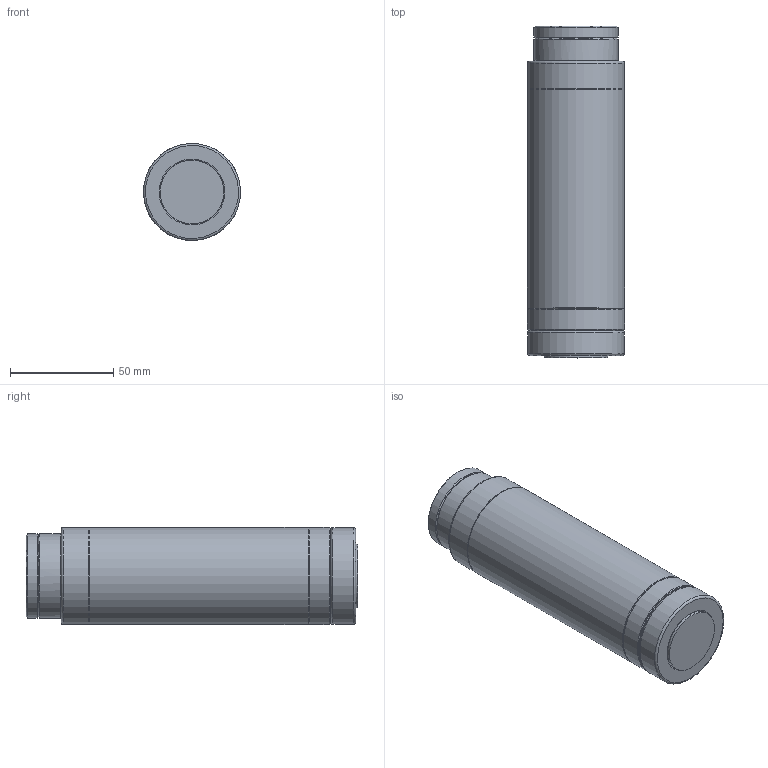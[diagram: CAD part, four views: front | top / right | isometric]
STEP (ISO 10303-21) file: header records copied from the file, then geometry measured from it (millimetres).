
FILE_DESCRIPTION (( 'STEP AP214' ), '1' );
FILE_NAME ('PA Altimeter 200-500kHz 4000m Al.STEP', '2014-12-10T13:53:32', ( 'Allan' ), ( 'Microsoft' ), 'SwSTEP 2.0', 'SolidWorks 2013', '' );
FILE_SCHEMA (( 'AUTOMOTIVE_DESIGN' ));
Length unit declared in the file: inch
Products named in the file (1): PA Altimeter 200-500kHz 4000m Al
Bounding box: 47 x 160.73 x 47 mm (x, y, z)
Surface area: 31666.3 mm2 (no closed solid volume)
Topology: 0 solids, 15 shells, 77 faces, 240 edges, 162 vertices
Faces by surface type: cylinder 35, cone 17, plane 10, torus 8, sphere 7
Full cylindrical faces by diameter (mm): 1.5 x6, 3.43 x8, 7 x4, 11.69 x1, 21.94 x1, 30.8 x1, 31 x1, 40.7 x2, 47 x4
Entity records: 3404 total; most frequent: CARTESIAN_POINT 613, DIRECTION 402, ORIENTED_EDGE 226, AXIS2_PLACEMENT_3D 195, EDGE_LOOP 161, EDGE_CURVE 149, VERTEX_POINT 134, CIRCLE 117
